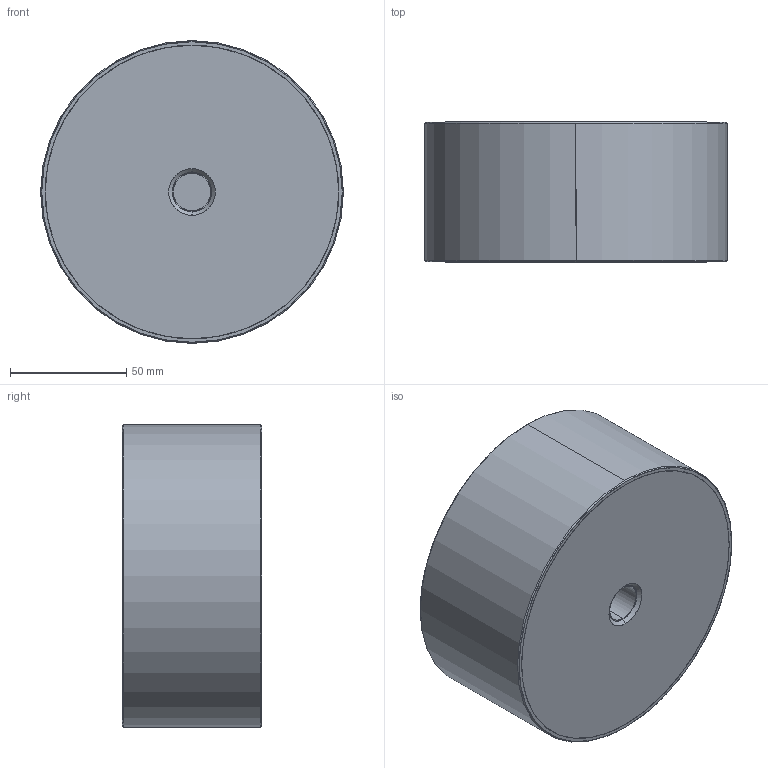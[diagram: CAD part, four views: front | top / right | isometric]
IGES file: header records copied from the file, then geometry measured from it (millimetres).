
Start section: SolidWorks IGES file using analytic representation for surfaces
Global section: file name: E:\WIXROYD 20180701\61080_v2\61080_v2_20180409_IGES\61080.W0932.igs; native system: SolidWorks 2017; preprocessor: SolidWorks 2017; author: liam_; date: 180716.214809; units: millimetre
Bounding box: 130 x 60 x 130 mm (x, y, z)
Surface area: 103684 mm2 (no closed solid volume)
Topology: 0 solids, 0 shells, 32 faces, 984 edges, 984 vertices
Faces by surface type: revolution 22, bspline 10
